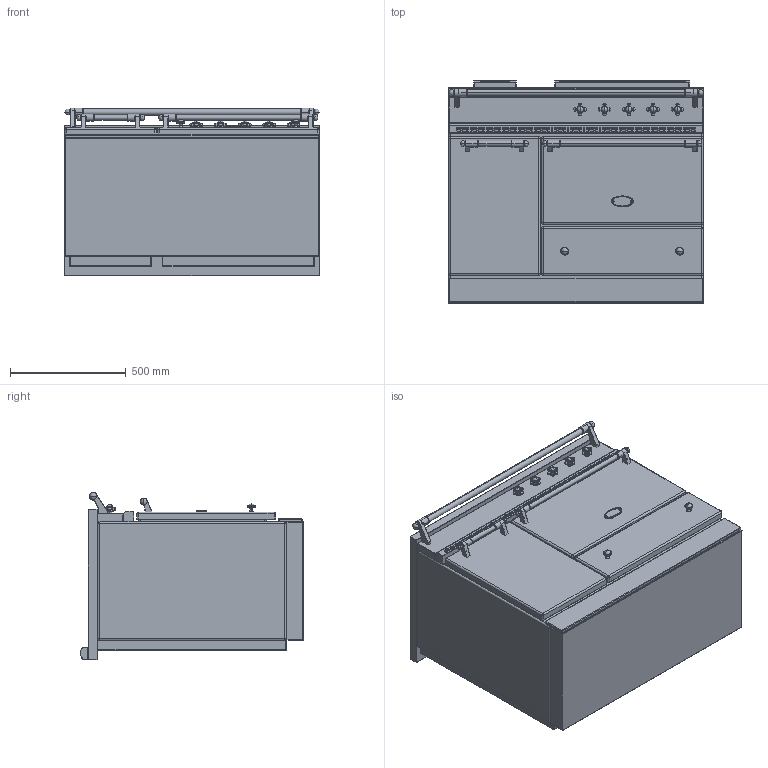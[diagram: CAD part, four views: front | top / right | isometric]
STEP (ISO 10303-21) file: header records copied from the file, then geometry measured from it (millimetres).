
FILE_DESCRIPTION((''),'2;1');
FILE_NAME('LVTR1141_CHASSAGNE_ASM','2021-12-02T09:04:53',('r.avril'),(''),'CREO PARAMETRIC BY PTC INC, 2017260','CREO PARAMETRIC BY PTC INC, 2017260','');
FILE_SCHEMA(('AP203_CONFIGURATION_CONTROLLED_3D_DESIGN_OF_MECHANICAL_PARTS_AND_ASSEMBLIES_MIM_LF { 1 0 10303 403 2 1 2 }'));
Products named in the file (19): BASE_EXPORT_CHASSAGNE_LVTR1141; 65650003; 65650004; 6531940; 6531941; 6531943; 65049009; 65650001; 6538399; 1931942; 65080022_AF0; 6531942_ASM; BASE_EXPORT_CHASSAGNE_LVTR1141_ASM; TABLE_1105G_INDUCTION_ET_VTR; 65052002; CHEMINEE_2020_LG182_EXPORT_STEP; CHEMINEE_2020_LG582_EXPORT_STEP; TABLE_1105G_VTR_ASM; LVTR1141_CHASSAGNE_ASM
Assembly tree (25 placements, depth 4):
  LVTR1141_CHASSAGNE_ASM
    BASE_EXPORT_CHASSAGNE_LVTR1141_ASM
      BASE_EXPORT_CHASSAGNE_LVTR1141
      65650003
      65650004
      6531940  x2
      6531941  x2
      6531943  x2
      65049009
      65650001
      6531942_ASM  x5
        6538399
        1931942
        65080022_AF0
    TABLE_1105G_VTR_ASM
      TABLE_1105G_INDUCTION_ET_VTR
      65052002
      CHEMINEE_2020_LG182_EXPORT_STEP
      CHEMINEE_2020_LG582_EXPORT_STEP
Bounding box: 1105 x 963 x 724 mm (x, y, z)
Volume: 407064979 mm3; surface area: 10419197.1 mm2
Topology: 37 solids, 45 shells, 3870 faces, 10410 edges, 6645 vertices
Faces by surface type: plane 1944, cylinder 1304, torus 170, sphere 154, extrusion 142, bspline 75, cone 69, revolution 12
Entity records: 97150 total; most frequent: CARTESIAN_POINT 22307, ORIENTED_EDGE 13516, DIRECTION 13180, EDGE_CURVE 6768, VECTOR 4418, LINE 4388, VERTEX_POINT 4365, AXIS2_PLACEMENT_3D 4350
